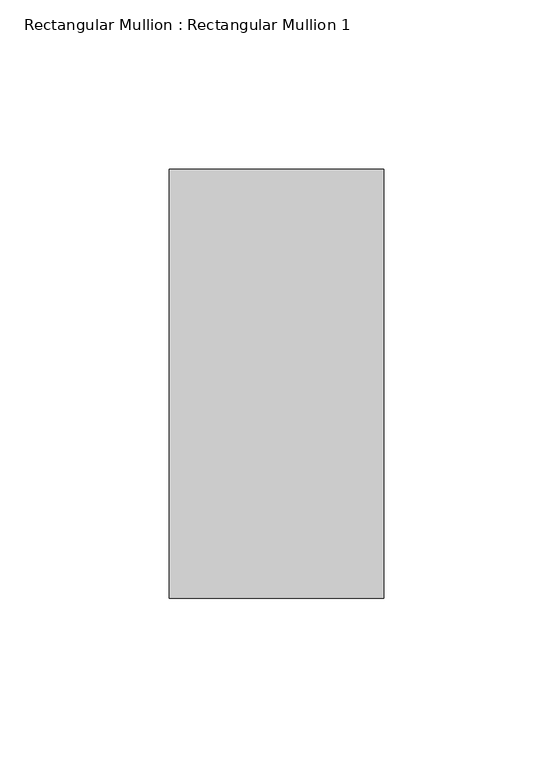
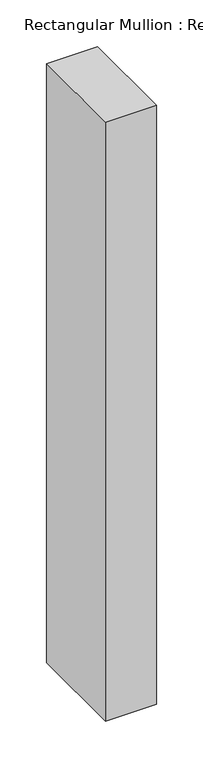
"""IFC4 building model written with IfcOpenShell, lengths in millimetres: member geometry, Rectangular Mullion : Rectangular Mullion 1."""

from ifc_helpers import new_model, si_unit, frame, origin, place, context, project, spatial, polyline, outline, extrude, source, transform, mapped, element, save


def rectangular_mullion_rectangular_mullion_1_b6725e6c(model_context):
    return source(origin(), model_context, "Body", "SweptSolid", [
        extrude(outline(polyline([(0.0, 63.5), (0.0, -63.5), (-63.5, -63.5), (-63.5, 63.5), (0.0, 63.5)])), frame((0.0, 0.0, -785.3891834), z_axis=(0.0, 0.0, 1.0), x_axis=(1.0, 0.0, 0.0)), (0.0, 0.0, 1.0), 785.3891834),
    ])


if __name__ == "__main__":
    model = new_model("IFC4")
    model_context = context("Model", 3, world=origin())
    ifc_project = project(units=[si_unit("LENGTHUNIT", "METRE", prefix="MILLI")], contexts=[model_context])
    site = spatial("IfcSite", under=ifc_project)
    building = spatial("IfcBuilding", under=site)
    placement = place(None, origin())
    rectangular_mullion_rectangular_mullion_1_shape = rectangular_mullion_rectangular_mullion_1_b6725e6c(model_context)
    element("IfcMember", 1, ObjectType="Rectangular Mullion : Rectangular Mullion 1", at=placement, inside=building, context=model_context, shape_type="MappedRepresentation", body=[
        mapped(rectangular_mullion_rectangular_mullion_1_shape, transform((0.0, 0.0, 0.0), x_axis=(1.0, 0.0, 0.0), y_axis=(0.0, 1.0, 0.0), z_axis=(0.0, 0.0, 1.0))),
    ])
    save(model, "model.ifc")
